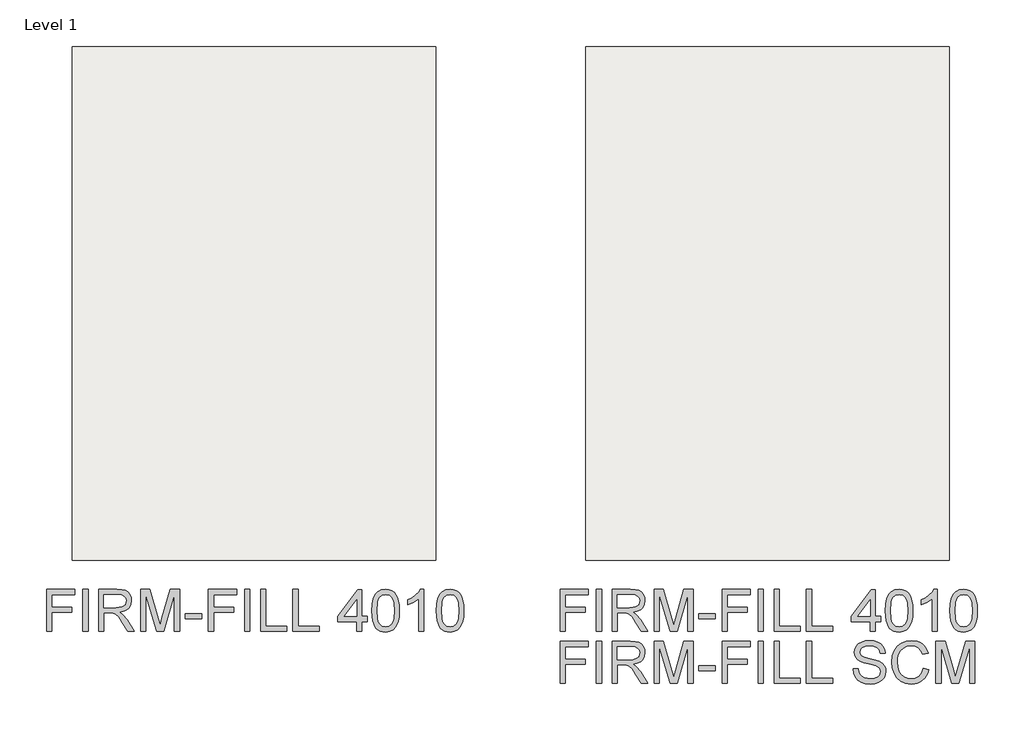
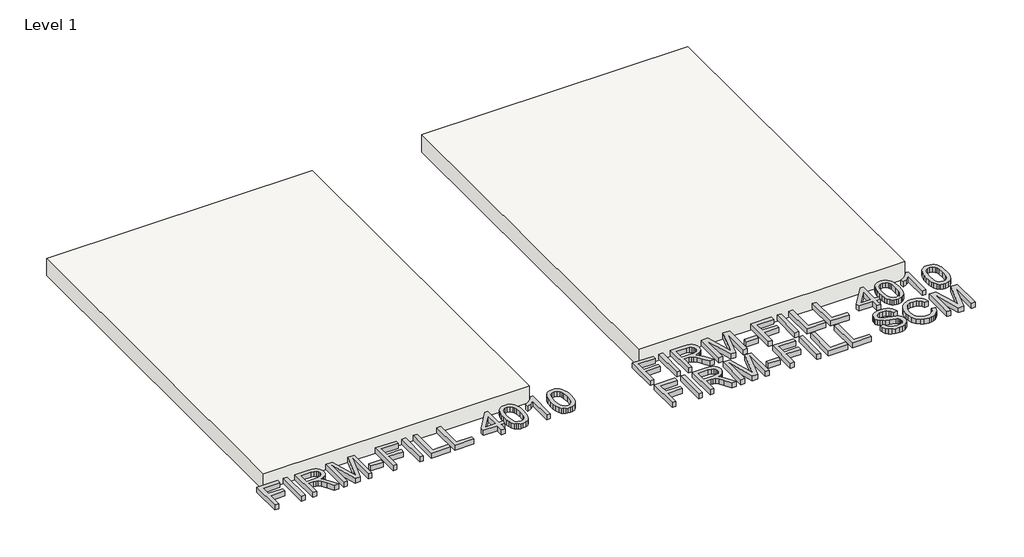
# One storey: 2 proxies, 2 slabs.
"""IFC4 building model written with IfcOpenShell, lengths in millimetres."""

from ifc_helpers import new_model, si_unit, frame, origin, origin_with_axes, place, context, project, spatial, polyline, outline, extrude, element, save

model = new_model("IFC4")

# Units and contexts
model_context = context("Model", 3, world=origin())
ifc_project = project(units=[si_unit("LENGTHUNIT", "METRE", prefix="MILLI")], contexts=[model_context])

# Site, building, storey
site = spatial("IfcSite", under=ifc_project)
building = spatial("IfcBuilding", under=site)
storey = spatial("IfcBuildingStorey", under=building, Name="Level 1", Elevation=0.0)

# Proxies
placement = place(None, origin())
element("IfcBuildingElementProxy", 1, Name="600mm Arial", ObjectType="600mm Arial", at=placement, inside=storey, context=model_context, shape_type="SweptSolid", body=[
    extrude(outline(polyline([(-12940.2803044, -1465.1314196), (-12940.2803044, -1165.0206504), (-12738.6433813, -1165.0206504), (-12738.6433813, -1202.5344966), (-12902.7664582, -1202.5344966), (-12902.7664582, -1291.6298812), (-12762.0895351, -1291.6298812), (-12762.0895351, -1329.1437273), (-12902.7664582, -1329.1437273), (-12902.7664582, -1465.1314196), (-12940.2803044, -1465.1314196)])), origin_with_axes(), (0.0, 0.0, 1.0), 50.8),
    extrude(outline(polyline([(-12682.3726121, -1465.1314196), (-12682.3726121, -1165.0206504), (-12644.8587659, -1165.0206504), (-12644.8587659, -1465.1314196), (-12682.3726121, -1465.1314196)])), origin_with_axes(), (0.0, 0.0, 1.0), 50.8),
    extrude(outline(polyline([(-12569.8310736, -1465.1314196), (-12569.8310736, -1165.0206504), (-12440.5108813, -1165.0206504), (-12405.7537899, -1167.0447129), (-12380.4667467, -1173.1169004), (-12361.9845832, -1184.3270927), (-12347.6421313, -1201.7651696), (-12338.4376842, -1223.3887514), (-12335.3695351, -1247.1554581), (-12340.452588, -1276.7195927), (-12355.7017467, -1301.2281504), (-12367.2530988, -1311.2156624), (-12381.5749438, -1319.1974293), (-12418.5301121, -1329.1437273), (-12397.2087659, -1345.1896889), (-12366.8020351, -1383.8025735), (-12316.7591505, -1465.1314196), (-12360.3543428, -1465.1314196), (-12399.4068428, -1402.9258427), (-12427.6154967, -1361.748535), (-12447.4348236, -1342.2955543), (-12465.2758813, -1335.1518043), (-12487.0368428, -1333.8329581), (-12532.3172274, -1333.8329581), (-12532.3172274, -1465.1314196), (-12569.8310736, -1465.1314196)]), holes=[polyline([(-12532.3172274, -1296.319112), (-12448.350689, -1296.319112), (-12424.2359534, -1294.9911071), (-12405.5248236, -1291.0070927), (-12391.438814, -1284.1014677), (-12381.199439, -1274.0086312), (-12374.9623957, -1261.8001456), (-12372.8833813, -1248.5475735), (-12376.8490784, -1230.2485831), (-12388.7461698, -1215.5031504), (-12409.2157611, -1205.77666), (-12438.8989582, -1202.5344966), (-12532.3172274, -1202.5344966), (-12532.3172274, -1296.319112)])]), origin_with_axes(), (0.0, 0.0, 1.0), 50.8),
    extrude(outline(polyline([(-12269.7203044, -1465.1314196), (-12269.7203044, -1165.0206504), (-12205.1701121, -1165.0206504), (-12143.7704967, -1376.5489196), (-12131.3879967, -1420.7302658), (-12117.9797274, -1372.8854581), (-12057.6058813, -1165.0206504), (-11993.055689, -1165.0206504), (-11993.055689, -1465.1314196), (-12030.5695351, -1465.1314196), (-12030.5695351, -1202.5344966), (-12105.9635736, -1465.1314196), (-12156.8124198, -1465.1314196), (-12232.2064582, -1202.5344966), (-12232.2064582, -1465.1314196), (-12269.7203044, -1465.1314196)])), origin_with_axes(), (0.0, 0.0, 1.0), 50.8),
    extrude(outline(polyline([(-11950.8526121, -1376.036035), (-11950.8526121, -1338.5221889), (-11833.6218428, -1338.5221889), (-11833.6218428, -1376.036035), (-11950.8526121, -1376.036035)])), origin_with_axes(), (0.0, 0.0, 1.0), 50.8),
    extrude(outline(polyline([(-11786.7295351, -1465.1314196), (-11786.7295351, -1165.0206504), (-11585.0926121, -1165.0206504), (-11585.0926121, -1202.5344966), (-11749.215689, -1202.5344966), (-11749.215689, -1291.6298812), (-11608.5387659, -1291.6298812), (-11608.5387659, -1329.1437273), (-11749.215689, -1329.1437273), (-11749.215689, -1465.1314196), (-11786.7295351, -1465.1314196)])), origin_with_axes(), (0.0, 0.0, 1.0), 50.8),
    extrude(outline(polyline([(-11528.8218428, -1465.1314196), (-11528.8218428, -1165.0206504), (-11491.3079967, -1165.0206504), (-11491.3079967, -1465.1314196), (-11528.8218428, -1465.1314196)])), origin_with_axes(), (0.0, 0.0, 1.0), 50.8),
    extrude(outline(polyline([(-11416.2803044, -1465.1314196), (-11416.2803044, -1165.0206504), (-11378.7664582, -1165.0206504), (-11378.7664582, -1427.6175735), (-11228.7110736, -1427.6175735), (-11228.7110736, -1465.1314196), (-11416.2803044, -1465.1314196)])), origin_with_axes(), (0.0, 0.0, 1.0), 50.8),
    extrude(outline(polyline([(-11186.5079967, -1465.1314196), (-11186.5079967, -1165.0206504), (-11148.9941505, -1165.0206504), (-11148.9941505, -1427.6175735), (-10998.9387659, -1427.6175735), (-10998.9387659, -1465.1314196), (-11186.5079967, -1465.1314196)])), origin_with_axes(), (0.0, 0.0, 1.0), 50.8),
    extrude(outline(polyline([(-10731.6526121, -1465.1314196), (-10731.6526121, -1394.7929581), (-10867.6403044, -1394.7929581), (-10867.6403044, -1357.279112), (-10722.2741505, -1169.7098812), (-10694.1387659, -1169.7098812), (-10694.1387659, -1357.279112), (-10656.6249198, -1357.279112), (-10656.6249198, -1394.7929581), (-10694.1387659, -1394.7929581), (-10694.1387659, -1465.1314196), (-10731.6526121, -1465.1314196)]), holes=[polyline([(-10731.6526121, -1357.279112), (-10731.6526121, -1241.3671889), (-10821.480689, -1357.279112), (-10731.6526121, -1357.279112)])]), origin_with_axes(), (0.0, 0.0, 1.0), 50.8),
    extrude(outline(polyline([(-10623.8003044, -1317.4939196), (-10621.0435496, -1269.4567802), (-10612.7732851, -1231.1461312), (-10599.071939, -1201.9758187), (-10580.021939, -1181.3596889), (-10555.4859053, -1169.10541), (-10525.3264582, -1165.0206504), (-10502.2100159, -1167.438535), (-10481.5114582, -1174.6921889), (-10464.2016024, -1186.4976937), (-10451.2512659, -1202.5711312), (-10441.4698236, -1222.7751216), (-10433.6666505, -1246.972285), (-10428.5561217, -1277.6995687), (-10426.8526121, -1317.4939196), (-10429.5818909, -1365.2562995), (-10437.7697274, -1403.475362), (-10451.3886457, -1432.6731504), (-10470.4111698, -1453.3717081), (-10495.0021553, -1465.7084148), (-10525.3264582, -1469.8206504), (-10545.9883813, -1468.0347129), (-10564.305689, -1462.6769004), (-10580.2783813, -1453.7472129), (-10593.9064582, -1441.2456504), (-10606.9850159, -1418.6466721), (-10616.3268428, -1390.4883908), (-10621.931939, -1356.7708067), (-10623.8003044, -1317.4939196)]), holes=[polyline([(-10586.2864582, -1317.4206504), (-10581.8903044, -1376.4298571), (-10576.3951121, -1396.6132406), (-10568.7018428, -1410.5824773), (-10549.065689, -1426.8757225), (-10525.3264582, -1432.3068043), (-10501.5872274, -1426.8574052), (-10481.9510736, -1410.5092081), (-10474.2578044, -1396.5170747), (-10468.7626121, -1376.3382706), (-10464.3664582, -1317.4206504), (-10468.6160736, -1259.7394485), (-10473.9280928, -1239.6224653), (-10481.3649198, -1225.3212273), (-10500.964439, -1208.2311793), (-10525.7660736, -1202.5344966), (-10549.2488621, -1207.5534389), (-10568.115689, -1222.6102658), (-10576.0654005, -1238.1799773), (-10581.7437659, -1259.171612), (-10586.2864582, -1317.4206504)])]), origin_with_axes(), (0.0, 0.0, 1.0), 50.8),
    extrude(outline(polyline([(-10253.3510736, -1465.1314196), (-10290.8649198, -1465.1314196), (-10290.8649198, -1231.256035), (-10326.4004967, -1256.5705543), (-10365.8926121, -1275.5106504), (-10365.8926121, -1240.0483427), (-10336.4292226, -1224.0206985), (-10310.9040544, -1204.9523812), (-10290.7824919, -1184.6751216), (-10277.5299198, -1165.0206504), (-10253.3510736, -1165.0206504), (-10253.3510736, -1465.1314196)])), origin_with_axes(), (0.0, 0.0, 1.0), 50.8),
    extrude(outline(polyline([(-10164.255689, -1317.4939196), (-10161.4989342, -1269.4567802), (-10153.2286698, -1231.1461312), (-10139.5273236, -1201.9758187), (-10120.4773236, -1181.3596889), (-10095.9412899, -1169.10541), (-10065.7818428, -1165.0206504), (-10042.6654005, -1167.438535), (-10021.9668428, -1174.6921889), (-10004.6569871, -1186.4976937), (-9991.7066505, -1202.5711312), (-9981.9252082, -1222.7751216), (-9974.1220351, -1246.972285), (-9969.0115063, -1277.6995687), (-9967.3079967, -1317.4939196), (-9970.0372755, -1365.2562995), (-9978.2251121, -1403.475362), (-9991.8440303, -1432.6731504), (-10010.8665544, -1453.3717081), (-10035.4575399, -1465.7084148), (-10065.7818428, -1469.8206504), (-10086.4437659, -1468.0347129), (-10104.7610736, -1462.6769004), (-10120.7337659, -1453.7472129), (-10134.3618428, -1441.2456504), (-10147.4404005, -1418.6466721), (-10156.7822274, -1390.4883908), (-10162.3873236, -1356.7708067), (-10164.255689, -1317.4939196)]), holes=[polyline([(-10126.7418428, -1317.4206504), (-10122.345689, -1376.4298571), (-10116.8504967, -1396.6132406), (-10109.1572274, -1410.5824773), (-10089.5210736, -1426.8757225), (-10065.7818428, -1432.3068043), (-10042.0426121, -1426.8574052), (-10022.4064582, -1410.5092081), (-10014.713189, -1396.5170747), (-10009.2179967, -1376.3382706), (-10004.8218428, -1317.4206504), (-10009.0714582, -1259.7394485), (-10014.3834774, -1239.6224653), (-10021.8203044, -1225.3212273), (-10041.4198236, -1208.2311793), (-10066.2214582, -1202.5344966), (-10089.7042467, -1207.5534389), (-10108.5710736, -1222.6102658), (-10116.5207851, -1238.1799773), (-10122.1991505, -1259.171612), (-10126.7418428, -1317.4206504)])]), origin_with_axes(), (0.0, 0.0, 1.0), 50.8),
])
element("IfcBuildingElementProxy", 2, Name="600mm Arial", ObjectType="600mm Arial", at=placement, inside=storey, context=model_context, shape_type="SweptSolid", body=[
    extrude(outline(polyline([(-9282.6803044, -1465.1314196), (-9282.6803044, -1165.0206504), (-9081.0433813, -1165.0206504), (-9081.0433813, -1202.5344966), (-9245.1664582, -1202.5344966), (-9245.1664582, -1291.6298812), (-9104.4895351, -1291.6298812), (-9104.4895351, -1329.1437273), (-9245.1664582, -1329.1437273), (-9245.1664582, -1465.1314196), (-9282.6803044, -1465.1314196)])), origin_with_axes(), (0.0, 0.0, 1.0), 50.8),
    extrude(outline(polyline([(-9024.7726121, -1465.1314196), (-9024.7726121, -1165.0206504), (-8987.2587659, -1165.0206504), (-8987.2587659, -1465.1314196), (-9024.7726121, -1465.1314196)])), origin_with_axes(), (0.0, 0.0, 1.0), 50.8),
    extrude(outline(polyline([(-8912.2310736, -1465.1314196), (-8912.2310736, -1165.0206504), (-8782.9108813, -1165.0206504), (-8748.1537899, -1167.0447129), (-8722.8667467, -1173.1169004), (-8704.3845832, -1184.3270927), (-8690.0421313, -1201.7651696), (-8680.8376842, -1223.3887514), (-8677.7695351, -1247.1554581), (-8682.852588, -1276.7195927), (-8698.1017467, -1301.2281504), (-8709.6530988, -1311.2156624), (-8723.9749438, -1319.1974293), (-8760.9301121, -1329.1437273), (-8739.6087659, -1345.1896889), (-8709.2020351, -1383.8025735), (-8659.1591505, -1465.1314196), (-8702.7543428, -1465.1314196), (-8741.8068428, -1402.9258427), (-8770.0154967, -1361.748535), (-8789.8348236, -1342.2955543), (-8807.6758813, -1335.1518043), (-8829.4368428, -1333.8329581), (-8874.7172274, -1333.8329581), (-8874.7172274, -1465.1314196), (-8912.2310736, -1465.1314196)]), holes=[polyline([(-8874.7172274, -1296.319112), (-8790.750689, -1296.319112), (-8766.6359534, -1294.9911071), (-8747.9248236, -1291.0070927), (-8733.838814, -1284.1014677), (-8723.599439, -1274.0086312), (-8717.3623957, -1261.8001456), (-8715.2833813, -1248.5475735), (-8719.2490784, -1230.2485831), (-8731.1461698, -1215.5031504), (-8751.6157611, -1205.77666), (-8781.2989582, -1202.5344966), (-8874.7172274, -1202.5344966), (-8874.7172274, -1296.319112)])]), origin_with_axes(), (0.0, 0.0, 1.0), 50.8),
    extrude(outline(polyline([(-8612.1203044, -1465.1314196), (-8612.1203044, -1165.0206504), (-8547.5701121, -1165.0206504), (-8486.1704967, -1376.5489196), (-8473.7879967, -1420.7302658), (-8460.3797274, -1372.8854581), (-8400.0058813, -1165.0206504), (-8335.455689, -1165.0206504), (-8335.455689, -1465.1314196), (-8372.9695351, -1465.1314196), (-8372.9695351, -1202.5344966), (-8448.3635736, -1465.1314196), (-8499.2124198, -1465.1314196), (-8574.6064582, -1202.5344966), (-8574.6064582, -1465.1314196), (-8612.1203044, -1465.1314196)])), origin_with_axes(), (0.0, 0.0, 1.0), 50.8),
    extrude(outline(polyline([(-8293.2526121, -1376.036035), (-8293.2526121, -1338.5221889), (-8176.0218428, -1338.5221889), (-8176.0218428, -1376.036035), (-8293.2526121, -1376.036035)])), origin_with_axes(), (0.0, 0.0, 1.0), 50.8),
    extrude(outline(polyline([(-8129.1295351, -1465.1314196), (-8129.1295351, -1165.0206504), (-7927.4926121, -1165.0206504), (-7927.4926121, -1202.5344966), (-8091.615689, -1202.5344966), (-8091.615689, -1291.6298812), (-7950.9387659, -1291.6298812), (-7950.9387659, -1329.1437273), (-8091.615689, -1329.1437273), (-8091.615689, -1465.1314196), (-8129.1295351, -1465.1314196)])), origin_with_axes(), (0.0, 0.0, 1.0), 50.8),
    extrude(outline(polyline([(-7871.2218428, -1465.1314196), (-7871.2218428, -1165.0206504), (-7833.7079967, -1165.0206504), (-7833.7079967, -1465.1314196), (-7871.2218428, -1465.1314196)])), origin_with_axes(), (0.0, 0.0, 1.0), 50.8),
    extrude(outline(polyline([(-7758.6803044, -1465.1314196), (-7758.6803044, -1165.0206504), (-7721.1664582, -1165.0206504), (-7721.1664582, -1427.6175735), (-7571.1110736, -1427.6175735), (-7571.1110736, -1465.1314196), (-7758.6803044, -1465.1314196)])), origin_with_axes(), (0.0, 0.0, 1.0), 50.8),
    extrude(outline(polyline([(-7528.9079967, -1465.1314196), (-7528.9079967, -1165.0206504), (-7491.3941505, -1165.0206504), (-7491.3941505, -1427.6175735), (-7341.3387659, -1427.6175735), (-7341.3387659, -1465.1314196), (-7528.9079967, -1465.1314196)])), origin_with_axes(), (0.0, 0.0, 1.0), 50.8),
    extrude(outline(polyline([(-7074.0526121, -1465.1314196), (-7074.0526121, -1394.7929581), (-7210.0403044, -1394.7929581), (-7210.0403044, -1357.279112), (-7064.6741505, -1169.7098812), (-7036.5387659, -1169.7098812), (-7036.5387659, -1357.279112), (-6999.0249198, -1357.279112), (-6999.0249198, -1394.7929581), (-7036.5387659, -1394.7929581), (-7036.5387659, -1465.1314196), (-7074.0526121, -1465.1314196)]), holes=[polyline([(-7074.0526121, -1357.279112), (-7074.0526121, -1241.3671889), (-7163.880689, -1357.279112), (-7074.0526121, -1357.279112)])]), origin_with_axes(), (0.0, 0.0, 1.0), 50.8),
    extrude(outline(polyline([(-6966.2003044, -1317.4939196), (-6963.4435496, -1269.4567802), (-6955.1732851, -1231.1461312), (-6941.471939, -1201.9758187), (-6922.421939, -1181.3596889), (-6897.8859053, -1169.10541), (-6867.7264582, -1165.0206504), (-6844.6100159, -1167.438535), (-6823.9114582, -1174.6921889), (-6806.6016024, -1186.4976937), (-6793.6512659, -1202.5711312), (-6783.8698236, -1222.7751216), (-6776.0666505, -1246.972285), (-6770.9561217, -1277.6995687), (-6769.2526121, -1317.4939196), (-6771.9818909, -1365.2562995), (-6780.1697274, -1403.475362), (-6793.7886457, -1432.6731504), (-6812.8111698, -1453.3717081), (-6837.4021553, -1465.7084148), (-6867.7264582, -1469.8206504), (-6888.3883813, -1468.0347129), (-6906.705689, -1462.6769004), (-6922.6783813, -1453.7472129), (-6936.3064582, -1441.2456504), (-6949.3850159, -1418.6466721), (-6958.7268428, -1390.4883908), (-6964.331939, -1356.7708067), (-6966.2003044, -1317.4939196)]), holes=[polyline([(-6928.6864582, -1317.4206504), (-6924.2903044, -1376.4298571), (-6918.7951121, -1396.6132406), (-6911.1018428, -1410.5824773), (-6891.465689, -1426.8757225), (-6867.7264582, -1432.3068043), (-6843.9872274, -1426.8574052), (-6824.3510736, -1410.5092081), (-6816.6578044, -1396.5170747), (-6811.1626121, -1376.3382706), (-6806.7664582, -1317.4206504), (-6811.0160736, -1259.7394485), (-6816.3280928, -1239.6224653), (-6823.7649198, -1225.3212273), (-6843.364439, -1208.2311793), (-6868.1660736, -1202.5344966), (-6891.6488621, -1207.5534389), (-6910.515689, -1222.6102658), (-6918.4654005, -1238.1799773), (-6924.1437659, -1259.171612), (-6928.6864582, -1317.4206504)])]), origin_with_axes(), (0.0, 0.0, 1.0), 50.8),
    extrude(outline(polyline([(-6595.7510736, -1465.1314196), (-6633.2649198, -1465.1314196), (-6633.2649198, -1231.256035), (-6668.8004967, -1256.5705543), (-6708.2926121, -1275.5106504), (-6708.2926121, -1240.0483427), (-6678.8292226, -1224.0206985), (-6653.3040544, -1204.9523812), (-6633.1824919, -1184.6751216), (-6619.9299198, -1165.0206504), (-6595.7510736, -1165.0206504), (-6595.7510736, -1465.1314196)])), origin_with_axes(), (0.0, 0.0, 1.0), 50.8),
    extrude(outline(polyline([(-6506.655689, -1317.4939196), (-6503.8989342, -1269.4567802), (-6495.6286698, -1231.1461312), (-6481.9273236, -1201.9758187), (-6462.8773236, -1181.3596889), (-6438.3412899, -1169.10541), (-6408.1818428, -1165.0206504), (-6385.0654005, -1167.438535), (-6364.3668428, -1174.6921889), (-6347.0569871, -1186.4976937), (-6334.1066505, -1202.5711312), (-6324.3252082, -1222.7751216), (-6316.5220351, -1246.972285), (-6311.4115063, -1277.6995687), (-6309.7079967, -1317.4939196), (-6312.4372755, -1365.2562995), (-6320.6251121, -1403.475362), (-6334.2440303, -1432.6731504), (-6353.2665544, -1453.3717081), (-6377.8575399, -1465.7084148), (-6408.1818428, -1469.8206504), (-6428.8437659, -1468.0347129), (-6447.1610736, -1462.6769004), (-6463.1337659, -1453.7472129), (-6476.7618428, -1441.2456504), (-6489.8404005, -1418.6466721), (-6499.1822274, -1390.4883908), (-6504.7873236, -1356.7708067), (-6506.655689, -1317.4939196)]), holes=[polyline([(-6469.1418428, -1317.4206504), (-6464.745689, -1376.4298571), (-6459.2504967, -1396.6132406), (-6451.5572274, -1410.5824773), (-6431.9210736, -1426.8757225), (-6408.1818428, -1432.3068043), (-6384.4426121, -1426.8574052), (-6364.8064582, -1410.5092081), (-6357.113189, -1396.5170747), (-6351.6179967, -1376.3382706), (-6347.2218428, -1317.4206504), (-6351.4714582, -1259.7394485), (-6356.7834774, -1239.6224653), (-6364.2203044, -1225.3212273), (-6383.8198236, -1208.2311793), (-6408.6214582, -1202.5344966), (-6432.1042467, -1207.5534389), (-6450.9710736, -1222.6102658), (-6458.9207851, -1238.1799773), (-6464.5991505, -1259.171612), (-6469.1418428, -1317.4206504)])]), origin_with_axes(), (0.0, 0.0, 1.0), 50.8),
    extrude(outline(polyline([(-9282.6803044, -1835.5806504), (-9282.6803044, -1535.4698812), (-9081.0433813, -1535.4698812), (-9081.0433813, -1572.9837273), (-9245.1664582, -1572.9837273), (-9245.1664582, -1662.079112), (-9104.4895351, -1662.079112), (-9104.4895351, -1699.5929581), (-9245.1664582, -1699.5929581), (-9245.1664582, -1835.5806504), (-9282.6803044, -1835.5806504)])), origin_with_axes(), (0.0, 0.0, 1.0), 50.8),
    extrude(outline(polyline([(-9024.7726121, -1835.5806504), (-9024.7726121, -1535.4698812), (-8987.2587659, -1535.4698812), (-8987.2587659, -1835.5806504), (-9024.7726121, -1835.5806504)])), origin_with_axes(), (0.0, 0.0, 1.0), 50.8),
    extrude(outline(polyline([(-8912.2310736, -1835.5806504), (-8912.2310736, -1535.4698812), (-8782.9108813, -1535.4698812), (-8748.1537899, -1537.4939437), (-8722.8667467, -1543.5661312), (-8704.3845832, -1554.7763235), (-8690.0421313, -1572.2144004), (-8680.8376842, -1593.8379821), (-8677.7695351, -1617.6046889), (-8682.852588, -1647.1688235), (-8698.1017467, -1671.6773812), (-8709.6530988, -1681.6648932), (-8723.9749438, -1689.64666), (-8760.9301121, -1699.5929581), (-8739.6087659, -1715.6389196), (-8709.2020351, -1754.2518043), (-8659.1591505, -1835.5806504), (-8702.7543428, -1835.5806504), (-8741.8068428, -1773.3750735), (-8770.0154967, -1732.1977658), (-8789.8348236, -1712.744785), (-8807.6758813, -1705.601035), (-8829.4368428, -1704.2821889), (-8874.7172274, -1704.2821889), (-8874.7172274, -1835.5806504), (-8912.2310736, -1835.5806504)]), holes=[polyline([(-8874.7172274, -1666.7683427), (-8790.750689, -1666.7683427), (-8766.6359534, -1665.4403379), (-8747.9248236, -1661.4563235), (-8733.838814, -1654.5506985), (-8723.599439, -1644.457862), (-8717.3623957, -1632.2493764), (-8715.2833813, -1618.9968043), (-8719.2490784, -1600.6978139), (-8731.1461698, -1585.9523812), (-8751.6157611, -1576.2258908), (-8781.2989582, -1572.9837273), (-8874.7172274, -1572.9837273), (-8874.7172274, -1666.7683427)])]), origin_with_axes(), (0.0, 0.0, 1.0), 50.8),
    extrude(outline(polyline([(-8612.1203044, -1835.5806504), (-8612.1203044, -1535.4698812), (-8547.5701121, -1535.4698812), (-8486.1704967, -1746.9981504), (-8473.7879967, -1791.1794966), (-8460.3797274, -1743.3346889), (-8400.0058813, -1535.4698812), (-8335.455689, -1535.4698812), (-8335.455689, -1835.5806504), (-8372.9695351, -1835.5806504), (-8372.9695351, -1572.9837273), (-8448.3635736, -1835.5806504), (-8499.2124198, -1835.5806504), (-8574.6064582, -1572.9837273), (-8574.6064582, -1835.5806504), (-8612.1203044, -1835.5806504)])), origin_with_axes(), (0.0, 0.0, 1.0), 50.8),
    extrude(outline(polyline([(-8293.2526121, -1746.4852658), (-8293.2526121, -1708.9714196), (-8176.0218428, -1708.9714196), (-8176.0218428, -1746.4852658), (-8293.2526121, -1746.4852658)])), origin_with_axes(), (0.0, 0.0, 1.0), 50.8),
    extrude(outline(polyline([(-8129.1295351, -1835.5806504), (-8129.1295351, -1535.4698812), (-7927.4926121, -1535.4698812), (-7927.4926121, -1572.9837273), (-8091.615689, -1572.9837273), (-8091.615689, -1662.079112), (-7950.9387659, -1662.079112), (-7950.9387659, -1699.5929581), (-8091.615689, -1699.5929581), (-8091.615689, -1835.5806504), (-8129.1295351, -1835.5806504)])), origin_with_axes(), (0.0, 0.0, 1.0), 50.8),
    extrude(outline(polyline([(-7871.2218428, -1835.5806504), (-7871.2218428, -1535.4698812), (-7833.7079967, -1535.4698812), (-7833.7079967, -1835.5806504), (-7871.2218428, -1835.5806504)])), origin_with_axes(), (0.0, 0.0, 1.0), 50.8),
    extrude(outline(polyline([(-7758.6803044, -1835.5806504), (-7758.6803044, -1535.4698812), (-7721.1664582, -1535.4698812), (-7721.1664582, -1798.0668043), (-7571.1110736, -1798.0668043), (-7571.1110736, -1835.5806504), (-7758.6803044, -1835.5806504)])), origin_with_axes(), (0.0, 0.0, 1.0), 50.8),
    extrude(outline(polyline([(-7528.9079967, -1835.5806504), (-7528.9079967, -1535.4698812), (-7491.3941505, -1535.4698812), (-7491.3941505, -1798.0668043), (-7341.3387659, -1798.0668043), (-7341.3387659, -1835.5806504), (-7528.9079967, -1835.5806504)])), origin_with_axes(), (0.0, 0.0, 1.0), 50.8),
    extrude(outline(polyline([(-7195.9726121, -1732.4175735), (-7158.4587659, -1732.4175735), (-7154.1541986, -1753.2351937), (-7146.3693428, -1769.9680543), (-7134.2249678, -1783.2481023), (-7116.8418428, -1793.707285), (-7095.5937659, -1800.4938475), (-7071.8545351, -1802.756035), (-7050.9544871, -1801.0433668), (-7032.6554967, -1795.905362), (-7017.8276361, -1787.7724773), (-7007.3409774, -1777.0751696), (-7001.1039342, -1764.7934148), (-6999.0249198, -1751.9071889), (-7000.5818909, -1739.3506745), (-7005.2528044, -1728.4976696), (-7014.7411698, -1719.2382706), (-7030.7504967, -1711.4625735), (-7085.3727082, -1697.1384389), (-7121.228838, -1687.6592321), (-7144.1712659, -1678.6379581), (-7162.8457611, -1666.0173331), (-7176.0800159, -1650.7223812), (-7183.9656169, -1633.0828139), (-7186.5941505, -1613.4283427), (-7183.3428284, -1591.4567321), (-7173.5888621, -1570.9688235), (-7157.5886938, -1553.6040158), (-7135.5987659, -1541.0017081), (-7109.2035255, -1533.3359148), (-7079.9874198, -1530.7806504), (-7048.3351121, -1533.4549773), (-7020.6393428, -1541.4779581), (-6997.8892467, -1554.684737), (-6981.0739582, -1572.9104581), (-6970.4316024, -1595.0194485), (-6966.2003044, -1619.876035), (-7003.7141505, -1619.876035), (-7010.6014582, -1597.492285), (-7024.9622274, -1581.3364196), (-7047.4009294, -1571.5549773), (-7078.5220351, -1568.2944966), (-7110.3758332, -1571.5183427), (-7132.2283813, -1581.1898812), (-7144.8673236, -1595.4224293), (-7149.0803044, -1612.3293043), (-7146.0945832, -1626.7450254), (-7137.1374198, -1638.3398812), (-7115.9626121, -1648.7074773), (-7075.8843428, -1659.2948812), (-7034.5238621, -1669.3510831), (-7009.5024198, -1678.1250735), (-6988.116963, -1691.7348331), (-6973.1975159, -1708.5318043), (-6964.4326842, -1728.3328139), (-6961.5110736, -1750.9546889), (-6964.8722996, -1774.0802898), (-6974.9559774, -1795.8320927), (-6991.3499678, -1814.5523812), (-7013.6421313, -1828.5834389), (-7040.4495111, -1837.3482706), (-7070.3891505, -1840.2698812), (-7107.1428284, -1837.1193043), (-7137.3938621, -1827.6675735), (-7161.4902803, -1811.8780543), (-7179.7801121, -1789.714112), (-7191.5215063, -1762.7144004), (-7195.9726121, -1732.4175735)])), origin_with_axes(), (0.0, 0.0, 1.0), 50.8),
    extrude(outline(polyline([(-6694.2249198, -1728.9006504), (-6656.7110736, -1738.5721889), (-6664.1341625, -1761.9015699), (-6674.0209294, -1782.2864437), (-6686.3713741, -1799.7268103), (-6701.1854967, -1814.2226696), (-6718.1290063, -1825.6183247), (-6736.8676121, -1833.7580783), (-6757.401314, -1838.6419305), (-6779.7301121, -1840.2698812), (-6823.2428765, -1835.3425254), (-6857.7984774, -1820.5604581), (-6884.2853044, -1796.4365639), (-6903.5917467, -1763.4837273), (-6915.3789342, -1724.7426216), (-6919.3079967, -1683.2539196), (-6914.8660496, -1639.4938716), (-6901.5402082, -1601.7052658), (-6880.0265303, -1571.087886), (-6851.0210736, -1548.8415158), (-6816.6211698, -1535.2958668), (-6778.9241505, -1530.7806504), (-6737.7926361, -1536.6238716), (-6719.8989162, -1543.927898), (-6703.7865544, -1554.153535), (-6689.7211517, -1567.0306023), (-6677.9683092, -1582.2889196), (-6661.4003044, -1619.9493043), (-6698.9141505, -1628.8881504), (-6711.919439, -1601.5312514), (-6729.6872274, -1582.7651696), (-6752.4373236, -1571.9121648), (-6780.3895351, -1568.2944966), (-6812.6096794, -1572.305987), (-6839.078189, -1584.3404581), (-6859.1631169, -1603.1340158), (-6872.2325159, -1627.4227658), (-6879.4037419, -1654.88041), (-6881.7941505, -1683.1806504), (-6878.9641265, -1717.8369966), (-6870.4740544, -1747.804112), (-6856.0033813, -1771.9371648), (-6835.2315544, -1789.0913235), (-6810.3291746, -1799.3398571), (-6783.4668428, -1802.756035), (-6752.1534053, -1798.1034389), (-6726.0604005, -1784.1456504), (-6706.3601361, -1761.0292081), (-6694.2249198, -1728.9006504)])), origin_with_axes(), (0.0, 0.0, 1.0), 50.8),
    extrude(outline(polyline([(-6605.1295351, -1835.5806504), (-6605.1295351, -1535.4698812), (-6540.5793428, -1535.4698812), (-6479.1797274, -1746.9981504), (-6466.7972274, -1791.1794966), (-6453.3889582, -1743.3346889), (-6393.0151121, -1535.4698812), (-6328.4649198, -1535.4698812), (-6328.4649198, -1835.5806504), (-6365.9787659, -1835.5806504), (-6365.9787659, -1572.9837273), (-6441.3728044, -1835.5806504), (-6492.2216505, -1835.5806504), (-6567.615689, -1572.9837273), (-6567.615689, -1835.5806504), (-6605.1295351, -1835.5806504)])), origin_with_axes(), (0.0, 0.0, 1.0), 50.8),
])

# Slabs
element("IfcSlab", 3, ObjectType="Hacker - Concrete - Subfloor Underlayment - FIRM-FILL 4010", at=placement, inside=storey, context=model_context, shape_type="SweptSolid", body=[
    extrude(outline(polyline([(-10167.7726121, 2700.4685804), (-10167.7726121, -957.1314196), (-12758.5726121, -957.1314196), (-12758.5726121, 2700.4685804), (-10167.7726121, 2700.4685804)])), frame((0.0, 0.0, -171.5492188), z_axis=(0.0, 0.0, 1.0), x_axis=(1.0, 0.0, 0.0)), (0.0, 0.0, 1.0), 171.5492188),
])
element("IfcSlab", 4, ObjectType="Hacker - Concrete - Subfloor Underlayment - FIRM-FILL 4010 - FIRM-FILL SCM", at=placement, inside=storey, context=model_context, shape_type="SweptSolid", body=[
    extrude(outline(polyline([(-6510.1726121, 2700.4685804), (-6510.1726121, -957.1314196), (-9100.9726121, -957.1314196), (-9100.9726121, 2700.4685804), (-6510.1726121, 2700.4685804)])), frame((0.0, 0.0, -180.8757812), z_axis=(0.0, 0.0, 1.0), x_axis=(1.0, 0.0, 0.0)), (0.0, 0.0, 1.0), 180.8757812),
])

save(model, "model.ifc")
